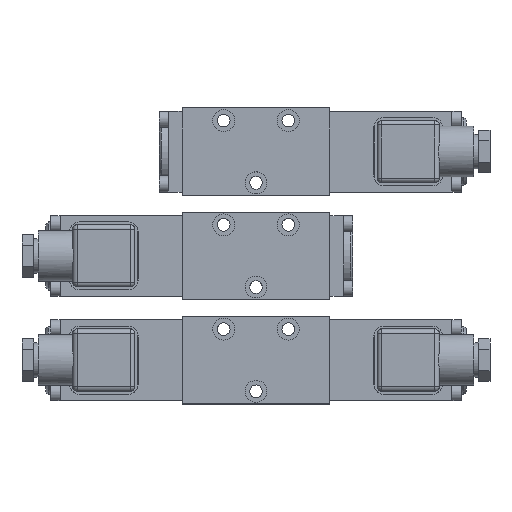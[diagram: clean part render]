
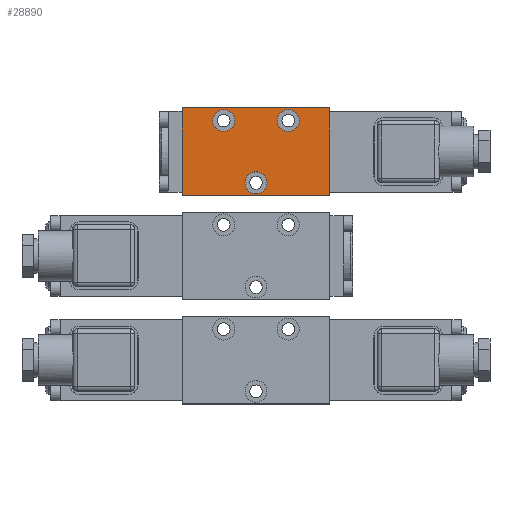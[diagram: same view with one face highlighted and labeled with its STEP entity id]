
A CAD part, top view. The second image highlights one B-rep face of the part: STEP entity #28890.
In plain terms, the highlighted planar face has unit normal (0, 0, 1).
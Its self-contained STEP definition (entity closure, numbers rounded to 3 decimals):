
#28890=ADVANCED_FACE('', (#28900,#28910,#28920,#28930), #28940, .T.);
#94880=AXIS2_PLACEMENT_3D('Ax2Pl3d', #94890, #94900, #94910);
#94920=AXIS2_PLACEMENT_3D('Ax2Pl3d', #94930, #94940, #94950);
#94960=AXIS2_PLACEMENT_3D('Ax2Pl3d', #94970, #94980, #94990);
#95000=AXIS2_PLACEMENT_3D('Ax2Pl3d', #95010, #95020, #95030);
#158480=CARTESIAN_POINT('', (64.,128.,298.));
#158490=CARTESIAN_POINT('', (64.,128.,298.));
#158500=CARTESIAN_POINT('', (64.,90.,298.));
#158610=CARTESIAN_POINT('', (0.,90.,298.));
#158620=CARTESIAN_POINT('', (0.,90.,298.));
#158630=CARTESIAN_POINT('', (0.,128.,298.));
#94890=CARTESIAN_POINT('HicPkt', (32.,95.5,298.));
#158710=CARTESIAN_POINT('', (32.,100.25,298.));
#94930=CARTESIAN_POINT('HicPkt', (0.,128.,298.));
#158720=CARTESIAN_POINT('', (64.,90.,298.));
#158730=CARTESIAN_POINT('', (0.,128.,298.));
#94970=CARTESIAN_POINT('HicPkt', (46.,122.5,298.));
#158740=CARTESIAN_POINT('', (46.,127.25,298.));
#95010=CARTESIAN_POINT('HicPkt', (18.,122.5,298.));
#158750=CARTESIAN_POINT('', (18.,127.25,298.));
#171130=CIRCLE('Circle', #94880, 4.75);
#171140=CIRCLE('Circle', #94960, 4.75);
#171150=CIRCLE('Circle', #95000, 4.75);
#256030=DIRECTION('', (0.,1.,0.));
#256060=DIRECTION('', (0.,-1.,0.));
#94900=DIRECTION('Axis', (0.,0.,1.));
#94910=DIRECTION('RefDirection', (1.,0.,0.));
#94940=DIRECTION('Axis', (0.,0.,1.));
#94950=DIRECTION('RefDirection', (1.,0.,0.));
#256080=DIRECTION('', (1.,0.,0.));
#256090=DIRECTION('', (-1.,0.,0.));
#94980=DIRECTION('Axis', (0.,0.,1.));
#94990=DIRECTION('RefDirection', (1.,0.,0.));
#95020=DIRECTION('Axis', (0.,0.,1.));
#95030=DIRECTION('RefDirection', (1.,0.,0.));
#294200=EDGE_CURVE('', #294210, #294180, #294220, .T.);
#294440=EDGE_CURVE('', #294450, #294420, #294460, .T.);
#294610=EDGE_CURVE('', #294620, #294620, #171130, .T.);
#294630=EDGE_CURVE('', #294420, #294210, #294640, .T.);
#294650=EDGE_CURVE('', #294180, #294450, #294660, .T.);
#294670=EDGE_CURVE('', #294680, #294680, #171140, .T.);
#294690=EDGE_CURVE('', #294700, #294700, #171150, .T.);
#348350=EDGE_LOOP('Edge_loop', (#348360,#348370,#348380,#348390));
#348400=EDGE_LOOP('Edge_loop', (#348410));
#348420=EDGE_LOOP('Edge_loop', (#348430));
#348440=EDGE_LOOP('Edge_loop', (#348450));
#28910=FACE_BOUND('', #348400, .T.);
#28920=FACE_BOUND('', #348420, .T.);
#28930=FACE_BOUND('', #348440, .T.);
#28900=FACE_OUTER_BOUND('Face_outer_bound', #348350, .T.);
#294220=LINE('Line', #158490, #397290);
#294460=LINE('Line', #158620, #397320);
#294640=LINE('Line', #158720, #397340);
#294660=LINE('Line', #158730, #397350);
#348360=ORIENTED_EDGE('', *, *, #294440, .T.);
#348370=ORIENTED_EDGE('', *, *, #294630, .T.);
#348380=ORIENTED_EDGE('', *, *, #294200, .T.);
#348390=ORIENTED_EDGE('', *, *, #294650, .T.);
#348410=ORIENTED_EDGE('', *, *, #294610, .F.);
#348430=ORIENTED_EDGE('', *, *, #294670, .F.);
#348450=ORIENTED_EDGE('', *, *, #294690, .F.);
#28940=PLANE('Plane', #94920);
#397290=VECTOR('', #256030, 38.);
#397320=VECTOR('', #256060, 38.);
#397340=VECTOR('', #256080, 64.);
#397350=VECTOR('', #256090, 64.);
#294180=VERTEX_POINT('', #158480);
#294210=VERTEX_POINT('', #158500);
#294420=VERTEX_POINT('', #158610);
#294450=VERTEX_POINT('', #158630);
#294620=VERTEX_POINT('', #158710);
#294680=VERTEX_POINT('', #158740);
#294700=VERTEX_POINT('', #158750);
